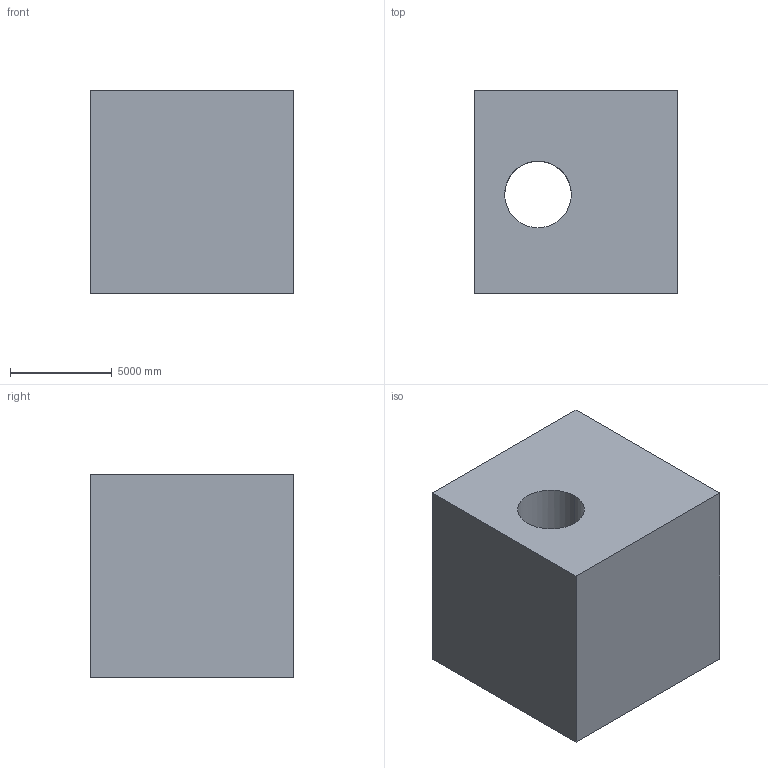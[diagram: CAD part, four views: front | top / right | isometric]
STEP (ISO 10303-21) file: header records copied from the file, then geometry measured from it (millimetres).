
FILE_DESCRIPTION (( 'STEP AP203' ), '1' );
FILE_NAME ('1121.STEP', '2022-08-18T12:50:35', ( 'user' ), ( '' ), 'SwSTEP 2.0', 'SolidWorks 2021', '' );
FILE_SCHEMA (( 'CONFIG_CONTROL_DESIGN' ));
Length unit declared in the file: centimetre
Products named in the file (1): 1121
Bounding box: 10000 x 10000 x 10000 mm (x, y, z)
Volume: 886002598009.9 mm3; surface area: 726017441.2 mm2
Topology: 1 solids, 1 shells, 13 faces, 33 edges, 22 vertices
Faces by surface type: plane 7, cylinder 6
Entity records: 876 total; most frequent: CARTESIAN_POINT 474, ORIENTED_EDGE 66, DIRECTION 65, EDGE_CURVE 33, AXIS2_PLACEMENT_3D 23, VERTEX_POINT 22, VECTOR 19, LINE 19
